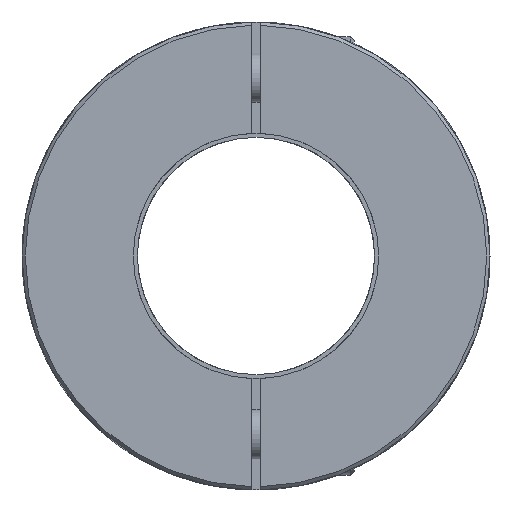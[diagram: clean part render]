
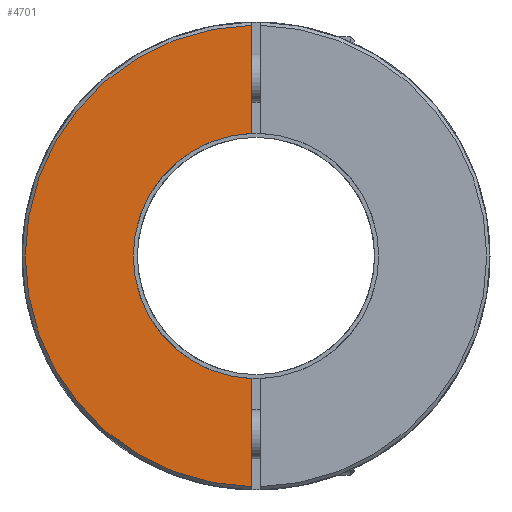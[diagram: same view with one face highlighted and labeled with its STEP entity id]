
A CAD part, front view. The second image highlights one B-rep face of the part: STEP entity #4701.
In plain terms, the highlighted planar face has unit normal (0, -1, 0).
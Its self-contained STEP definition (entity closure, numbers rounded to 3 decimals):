
#1=DIRECTION('',(0.,0.,-1.));
#2=VECTOR('',#1,13.204);
#3=CARTESIAN_POINT('',(-0.5,-65.,28.196));
#4=LINE('',#3,#2);
#5=DIRECTION('',(0.,0.,-1.));
#6=VECTOR('',#5,13.204);
#7=CARTESIAN_POINT('',(-0.5,-65.,-14.992));
#8=LINE('',#7,#6);
#72=CARTESIAN_POINT('',(0.,-65.,0.));
#73=DIRECTION('',(0.,1.,0.));
#74=DIRECTION('',(-0.033,0.,-0.999));
#75=AXIS2_PLACEMENT_3D('',#72,#73,#74);
#4017=CARTESIAN_POINT('',(0.,-65.,0.));
#4018=DIRECTION('',(0.,-1.,0.));
#4019=DIRECTION('',(-0.018,0.,1.));
#4020=AXIS2_PLACEMENT_3D('',#4017,#4018,#4019);
#4321=CARTESIAN_POINT('',(-0.5,-65.,28.196));
#4322=CARTESIAN_POINT('',(-0.5,-65.,14.992));
#4323=VERTEX_POINT('',#4321);
#4324=VERTEX_POINT('',#4322);
#4325=CARTESIAN_POINT('',(-0.5,-65.,-14.992));
#4326=CARTESIAN_POINT('',(-0.5,-65.,-28.196));
#4327=VERTEX_POINT('',#4325);
#4328=VERTEX_POINT('',#4326);
#4686=CARTESIAN_POINT('',(0.,-65.,0.));
#4687=DIRECTION('',(0.,1.,0.));
#4688=DIRECTION('',(1.,0.,0.));
#4689=AXIS2_PLACEMENT_3D('',#4686,#4687,#4688);
#4690=PLANE('',#4689);
#4692=ORIENTED_EDGE('',*,*,#4691,.T.);
#4694=ORIENTED_EDGE('',*,*,#4693,.F.);
#4696=ORIENTED_EDGE('',*,*,#4695,.T.);
#4698=ORIENTED_EDGE('',*,*,#4697,.F.);
#4699=EDGE_LOOP('',(#4692,#4694,#4696,#4698));
#4700=FACE_OUTER_BOUND('',#4699,.F.);
#4701=ADVANCED_FACE('',(#4700),#4690,.F.);
#76=CIRCLE('',#75,15.);
#4021=CIRCLE('',#4020,28.2);
#4691=EDGE_CURVE('',#4323,#4324,#4,.T.);
#4693=EDGE_CURVE('',#4327,#4324,#76,.T.);
#4695=EDGE_CURVE('',#4327,#4328,#8,.T.);
#4697=EDGE_CURVE('',#4323,#4328,#4021,.T.);
